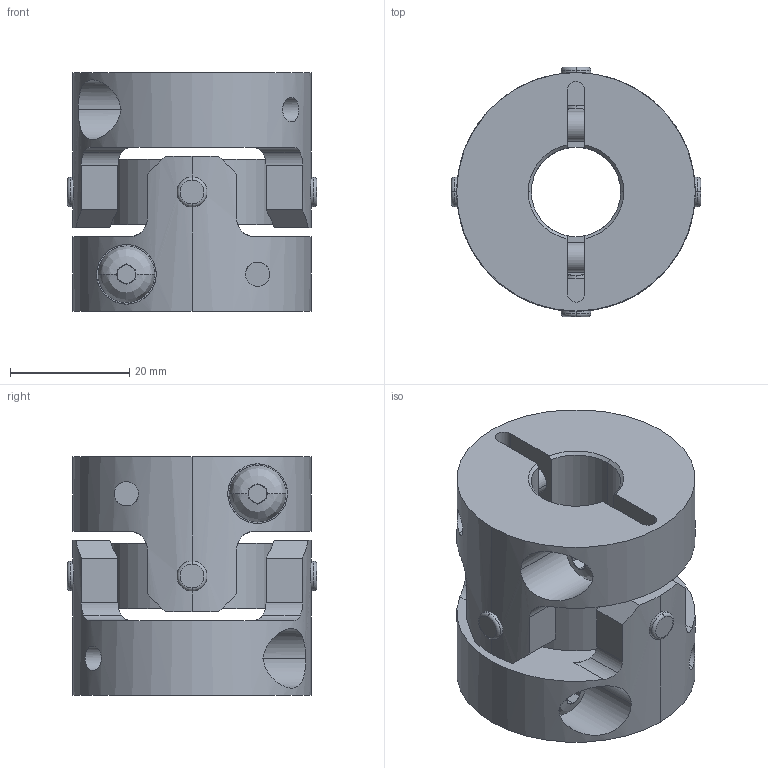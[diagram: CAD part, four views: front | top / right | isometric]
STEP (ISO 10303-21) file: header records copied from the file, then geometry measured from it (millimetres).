
FILE_DESCRIPTION((''),'2;1');
FILE_NAME('UA-40C-15×16.stp','2013-05-22T09:28:11',(''),(''),'AutoCAD STEP 2000i','AutoCAD 2000i',', , ');
FILE_SCHEMA(('CONFIG_CONTROL_DESIGN'));
Length unit declared in the file: millimetre
Products named in the file (6): UA-40C-8×8; 忣兜1; UA-4002-D08-1; BTN-M5; UA-4002-D08; UA40-SEN
Assembly tree (6 placements, depth 3):
  UA-40C-8×8
    忣兜1
    UA-4002-D08-1
      BTN-M5
    UA-4002-D08
      BTN-M5
    UA40-SEN
Bounding box: 41.81 x 41.81 x 40 mm (x, y, z)
Volume: 32310.8 mm3; surface area: 15408.2 mm2
Topology: 1 solids, 1 shells, 250 faces, 646 edges, 408 vertices
Faces by surface type: plane 122, cylinder 96, cone 16, bspline 8, torus 8
Entity records: 9627 total; most frequent: CARTESIAN_POINT 3371, ORIENTED_EDGE 1292, DIRECTION 1288, EDGE_CURVE 646, AXIS2_PLACEMENT_3D 497, VERTEX_POINT 408, VECTOR 294, LINE 294
